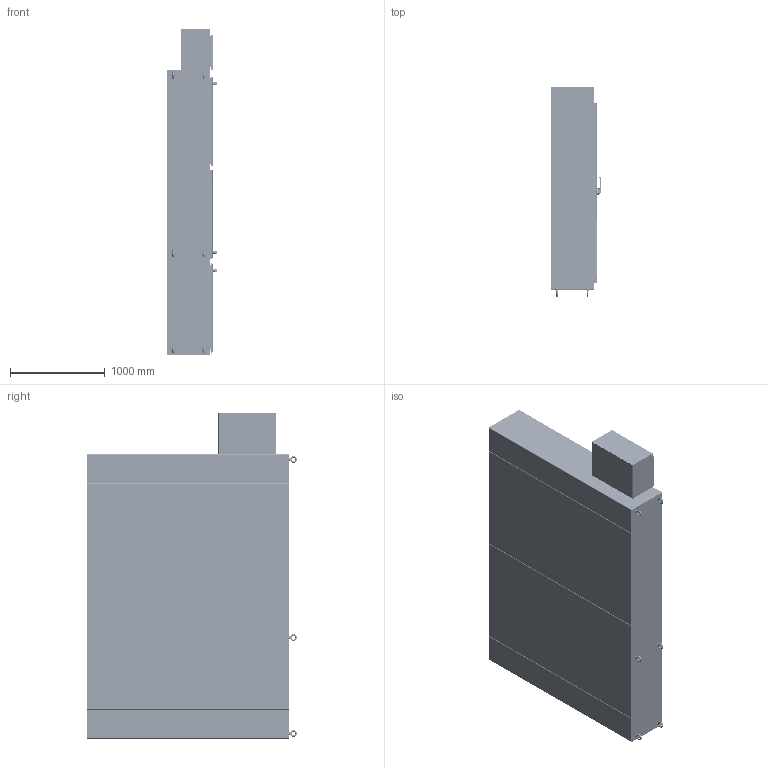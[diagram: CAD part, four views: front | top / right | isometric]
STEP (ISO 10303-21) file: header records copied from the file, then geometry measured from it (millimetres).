
FILE_DESCRIPTION((''),'2;1');
FILE_NAME('MODEL-607_ASM','2021-11-09T08:28:45',('mikek'),('SAGINAW CONTROL & ENGINEERING'),'CREO PARAMETRIC BY PTC INC, 2017260','CREO PARAMETRIC BY PTC INC, 2017260','');
FILE_SCHEMA(('AUTOMOTIVE_DESIGN { 1 0 10303 214 1 1 1 1 }'));
Length unit declared in the file: inch
Products named in the file (164): MODEL-607-3D-TP; MODEL-607-3D-R-SD; MODEL-607-3D-L-SD; MODEL-607-3D-BTM; MODEL-607-3D-R-BCK; MODEL-607-3D-L-BCK; 128003; 100028; 128003_ASM; 127619; 127619_ASM; MODEL-607-RH-CCA-CHNL; MODEL-607-RH-CCA-STIF; 100062; 128004; 128007; 102535; 100057; MODEL-607-RH-CCASSY_ASM; MODEL-607-M-CCA-CHNL; MODEL-607-M-CCA-STIF; 127618; 127617; MODEL-607-M-CCASSY_ASM; MODEL-607-M-DR; 100837; 111267; 100882; 100956_HANDLE; 100956_HANDLE_INSERT; 100956_SHAFT_CAM; 100956_ADAPTER_CAM; 100956_NUT_CAM; 100956_BASE; 100956_NUT_MOUNTING_LARGE; 100956_NUT_MOUNTING_SMALL; 100956_SCREW_SMALL; 100956_PADLOCK_CATCH; 100956_ASM; 102237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
Assembly tree (477 placements, depth 5):
  MODEL-607_ASM
    MODEL-607-3D-TP
    MODEL-607-3D-R-SD
    MODEL-607-3D-L-SD
    MODEL-607-3D-BTM
    MODEL-607-3D-R-BCK
    MODEL-607-3D-L-BCK
    128003_ASM  x2
      128003
      100028
    127619_ASM  x2
      127619
      100028
    MODEL-607-RH-CCASSY_ASM
      MODEL-607-RH-CCA-CHNL
      MODEL-607-RH-CCA-STIF
      100062  x4
      128004  x2
      128007  x2
      102535  x8
      100057  x2
    MODEL-607-M-CCASSY_ASM
      MODEL-607-M-CCA-CHNL
      MODEL-607-M-CCA-STIF
      100062  x4
      127618  x2
      127617  x2
      102535  x8
    MODEL-607-M-DOOR-ASSY_ASM
      MODEL-607-M-DR
      100837  x7
      111267
      100882  x12
      100956_ASM
        100956_HANDLE
        100956_HANDLE_INSERT
        100956_SHAFT_CAM
        100956_ADAPTER_CAM
        100956_NUT_CAM
        100956_BASE
        100956_NUT_MOUNTING_LARGE
        100956_NUT_MOUNTING_SMALL
        100956_SCREW_SMALL
        100956_PADLOCK_CATCH
      102237_ASM
        102237
        100030  x2
      MODEL-607-ROD-UPR-MD_ASM
        MODEL-607-ROD-UPR-MD
        128146
        128145
        128144
        102482  x2
      128143  x2
      112504  x2
      MODEL-607-ROD-LWR-MD_ASM
        MODEL-607-ROD-LWR-MD
        128146
        128145
        128144
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Bounding box: 534.57 x 2212.64 x 3429.77 mm (x, y, z)
Volume: 82276441 mm3; surface area: 54612897 mm2
Topology: 541 solids, 541 shells, 39372 faces, 101038 edges, 62934 vertices
Faces by surface type: plane 14057, cylinder 10632, bspline 8333, torus 2644, cone 2222, sphere 1076, extrusion 408
Entity records: 458035 total; most frequent: CARTESIAN_POINT 124025, ORIENTED_EDGE 47384, DIRECTION 46895, EDGE_CURVE 23692, PRESENTATION_STYLE_ASSIGNMENT 21804, STYLED_ITEM 21304, CURVE_STYLE 21111, AXIS2_PLACEMENT_3D 17087
